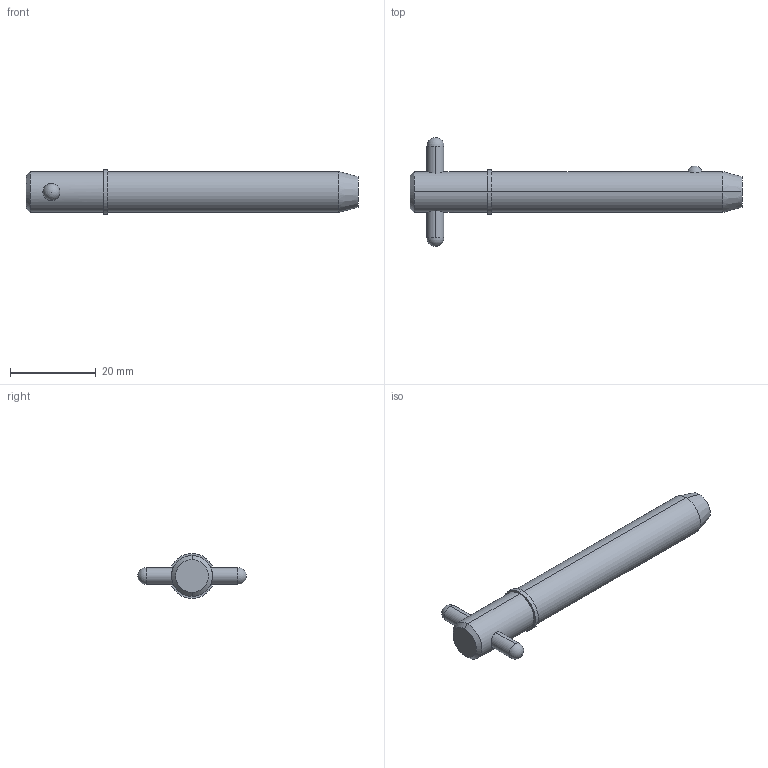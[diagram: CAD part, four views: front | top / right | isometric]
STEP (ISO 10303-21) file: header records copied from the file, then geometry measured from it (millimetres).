
FILE_DESCRIPTION (( 'STEP AP203' ), '1' );
FILE_NAME ('33018.W3718.step', '2024-11-19T17:11:05', ( '' ), ( '' ), 'SwSTEP 2.0', 'SolidWorks 2019', '' );
FILE_SCHEMA (( 'CONFIG_CONTROL_DESIGN' ));
Length unit declared in the file: millimetre
Products named in the file (3): Part2_33018.W3718; Part1_33018.W3718; 33018.W3718
Assembly tree (2 placements, depth 2):
  33018.W3718
    Part1_33018.W3718
    Part2_33018.W3718
Bounding box: 77.47 x 25.4 x 10.48 mm (x, y, z)
Volume: 5644.4 mm3; surface area: 2843.8 mm2
Topology: 2 solids, 2 shells, 22 faces, 47 edges, 30 vertices
Faces by surface type: cylinder 10, sphere 4, cone 4, plane 4
Entity records: 1023 total; most frequent: CARTESIAN_POINT 266, DIRECTION 110, ORIENTED_EDGE 82, AXIS2_PLACEMENT_3D 48, EDGE_CURVE 41, EDGE_LOOP 27, PERSON_AND_ORGANIZATION 26, VERTEX_POINT 26
